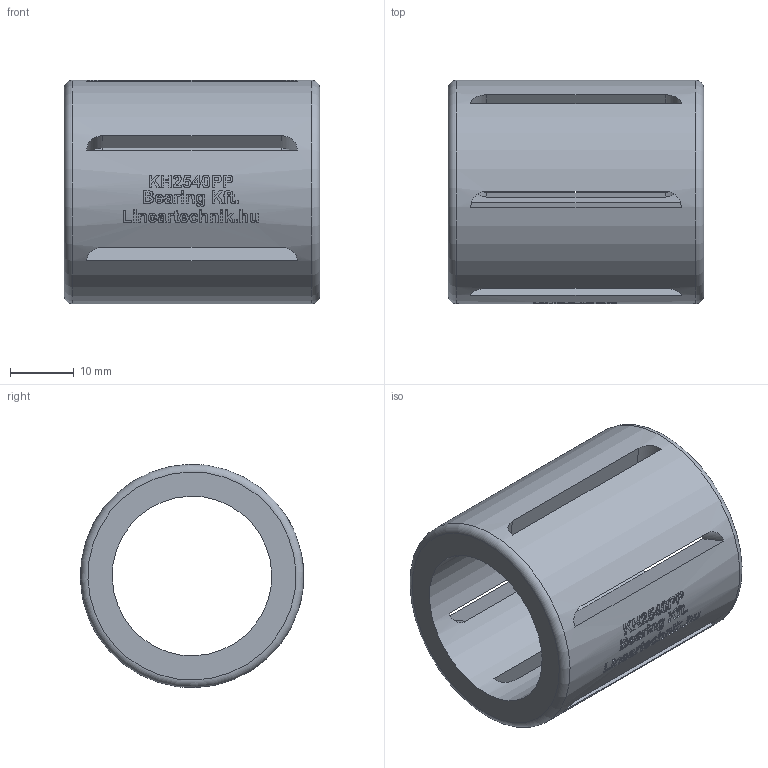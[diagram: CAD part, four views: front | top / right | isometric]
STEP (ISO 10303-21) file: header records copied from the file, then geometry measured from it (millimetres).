
FILE_DESCRIPTION(/* description */ (''),/* implementation_level */ '2;1');
FILE_NAME(/* name */ 'KH2540PP',/* time_stamp */ '2019-07-11T11:31:34+02:00',/* author */ ('VĂ©gh MĂˇtĂ©'),/* organization */ ('Bearing Kft'),/* preprocessor_version */ 'ST-DEVELOPER v16.7',/* originating_system */ 'DEX',/* authorisation */ $);
FILE_SCHEMA (('AUTOMOTIVE_DESIGN {1 0 10303 214 3 1 1}'));
Length unit declared in the file: millimetre
Products named in the file (1): KH2540PP
Bounding box: 40 x 34.99 x 35 mm (x, y, z)
Volume: 16372.8 mm3; surface area: 9510.4 mm2
Topology: 1 solids, 1 shells, 353 faces, 904 edges, 601 vertices
Faces by surface type: plane 187, bspline 100, cylinder 64, torus 2
Full cylindrical faces by diameter (mm): 25 x1, 35 x1
Entity records: 16499 total; most frequent: CARTESIAN_POINT 8461, ORIENTED_EDGE 1790, DIRECTION 1345, EDGE_CURVE 895, VERTEX_POINT 601, LINE 503, VECTOR 503, EDGE_LOOP 424
